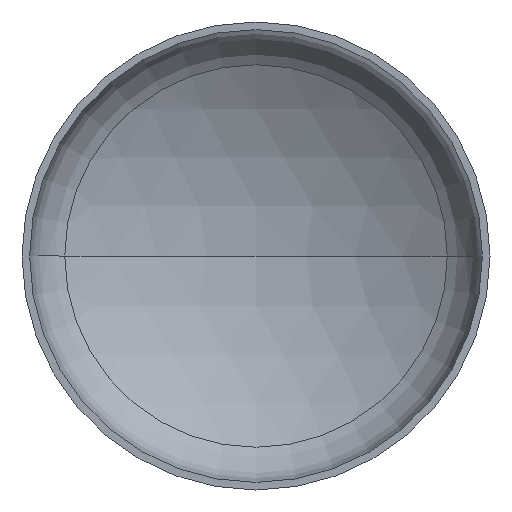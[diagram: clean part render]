
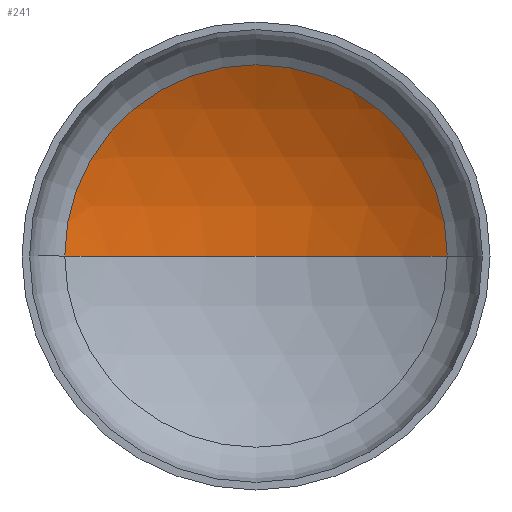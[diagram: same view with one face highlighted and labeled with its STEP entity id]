
A CAD part, front view. The second image highlights one B-rep face of the part: STEP entity #241.
In plain terms, the highlighted spherical face has radius 2400 mm.
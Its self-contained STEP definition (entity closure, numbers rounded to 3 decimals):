
#10 = DIRECTION ( 'NONE',  ( -1., 0., 0. ) ) ;
#11 = EDGE_LOOP ( 'NONE', ( #303, #146, #106 ) ) ;
#16 = DIRECTION ( 'NONE',  ( 1., 0., 0. ) ) ;
#21 = DIRECTION ( 'NONE',  ( 0., 0., 1. ) ) ;
#22 = CARTESIAN_POINT ( 'NONE',  ( 0., -1517.789, 0. ) ) ;
#26 = DIRECTION ( 'NONE',  ( -1., 0., 0. ) ) ;
#35 = VERTEX_POINT ( 'NONE', #262 ) ;
#40 = AXIS2_PLACEMENT_3D ( 'NONE', #188, #251, #26 ) ;
#53 = AXIS2_PLACEMENT_3D ( 'NONE', #22, #21, #16 ) ;
#55 = AXIS2_PLACEMENT_3D ( 'NONE', #169, #337, #10 ) ;
#62 = AXIS2_PLACEMENT_3D ( 'NONE', #219, #206, #207 ) ;
#106 = ORIENTED_EDGE ( 'NONE', *, *, #112, .T. ) ;
#112 = EDGE_CURVE ( 'NONE', #35, #136, #165, .T. ) ;
#115 = EDGE_CURVE ( 'NONE', #127, #35, #406, .T. ) ;
#116 = EDGE_CURVE ( 'NONE', #127, #136, #349, .T. ) ;
#127 = VERTEX_POINT ( 'NONE', #330 ) ;
#136 = VERTEX_POINT ( 'NONE', #267 ) ;
#146 = ORIENTED_EDGE ( 'NONE', *, *, #115, .T. ) ;
#165 = CIRCLE ( 'NONE', #62, 1225.979 ) ;
#169 = CARTESIAN_POINT ( 'NONE',  ( 0., -1517.789, 0. ) ) ;
#188 = CARTESIAN_POINT ( 'NONE',  ( 0., -1517.789, 0. ) ) ;
#206 = DIRECTION ( 'NONE',  ( 0., -1., 0. ) ) ;
#207 = DIRECTION ( 'NONE',  ( 1., 0., 0. ) ) ;
#214 = SPHERICAL_SURFACE ( 'NONE', #40, 2400. ) ;
#219 = CARTESIAN_POINT ( 'NONE',  ( 0., 545.455, 0. ) ) ;
#241 = ADVANCED_FACE ( 'NONE', ( #333 ), #214, .F. ) ;
#251 = DIRECTION ( 'NONE',  ( 0., 0., -1. ) ) ;
#262 = CARTESIAN_POINT ( 'NONE',  ( 1225.979, 545.455, 0. ) ) ;
#267 = CARTESIAN_POINT ( 'NONE',  ( -1225.979, 545.455, 0. ) ) ;
#303 = ORIENTED_EDGE ( 'NONE', *, *, #116, .F. ) ;
#330 = CARTESIAN_POINT ( 'NONE',  ( 0., 882.211, 0. ) ) ;
#333 = FACE_OUTER_BOUND ( 'NONE', #11, .T. ) ;
#337 = DIRECTION ( 'NONE',  ( 0., 0., -1. ) ) ;
#349 = CIRCLE ( 'NONE', #53, 2400. ) ;
#406 = CIRCLE ( 'NONE', #55, 2400. ) ;
